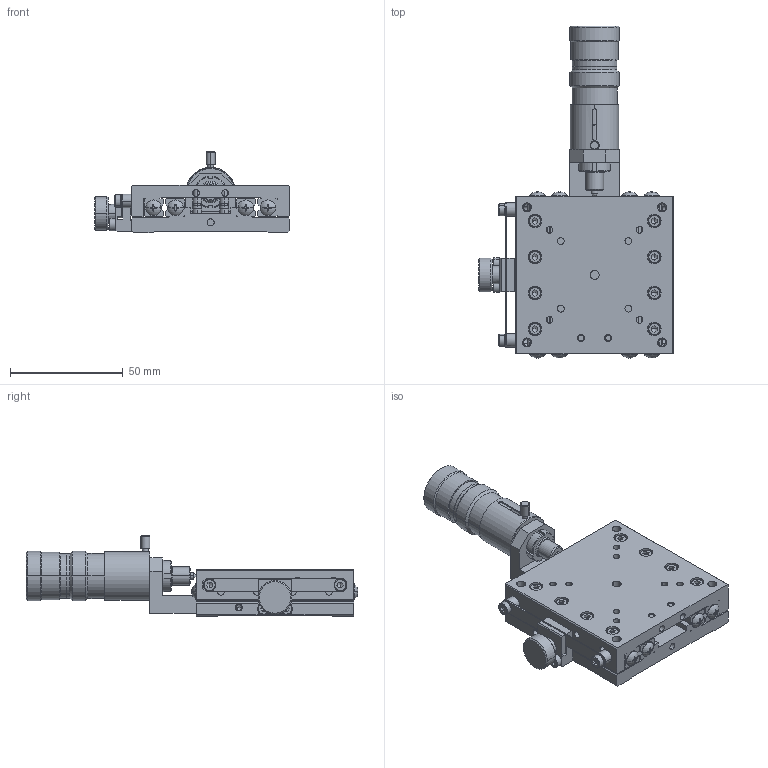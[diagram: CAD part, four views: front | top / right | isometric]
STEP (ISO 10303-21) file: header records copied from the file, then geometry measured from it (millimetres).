
FILE_DESCRIPTION (( 'STEP AP214' ), '1' );
FILE_NAME ('XM07A-C3-CL.STEP', '2009-05-11T05:32:28', ( ' ' ), ( ' ' ), 'SwSTEP 2.0', 'SolidWorks 2008', '' );
FILE_SCHEMA (( 'AUTOMOTIVE_DESIGN' ));
Length unit declared in the file: millimetre
Products named in the file (5): XM07A-C3-CL; 001490-1011(3D); 001490-1011(3D)-Part-2; 001490-1011(3D)-Part-1; 001490-1023(3D)
Assembly tree (4 placements, depth 3):
  XM07A-C3-CL
    001490-1023(3D)
    001490-1011(3D)
      001490-1011(3D)-Part-1
      001490-1011(3D)-Part-2
Bounding box: 86.5 x 147.37 x 36 mm (x, y, z)
Volume: 109831.3 mm3; surface area: 52370.4 mm2
Topology: 3 solids, 39 shells, 1747 faces, 4194 edges, 2524 vertices
Faces by surface type: plane 788, cylinder 554, cone 372, sphere 17, torus 16
Entity records: 51126 total; most frequent: CARTESIAN_POINT 9660, DIRECTION 9201, ORIENTED_EDGE 8216, EDGE_CURVE 4108, AXIS2_PLACEMENT_3D 3534, VERTEX_POINT 2523, LINE 2133, VECTOR 2133
